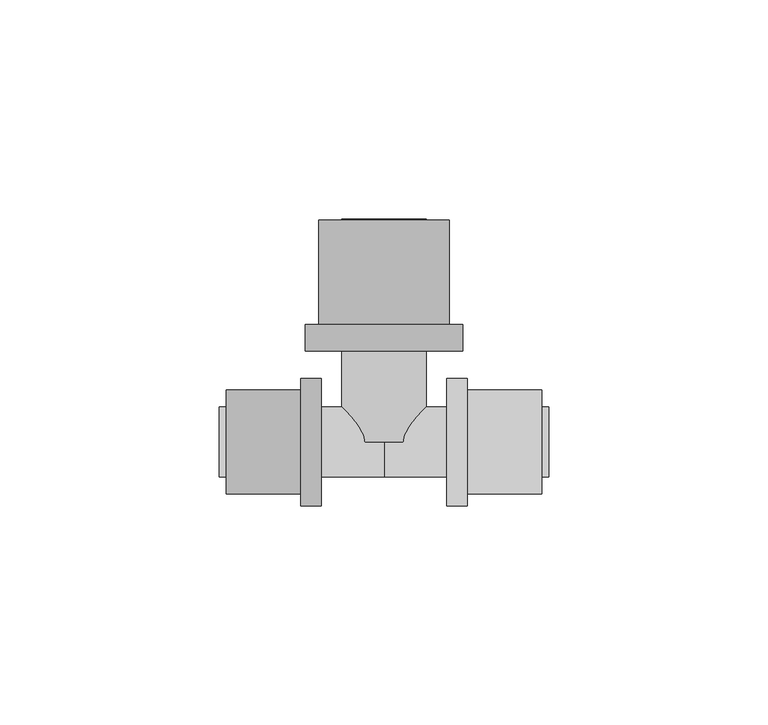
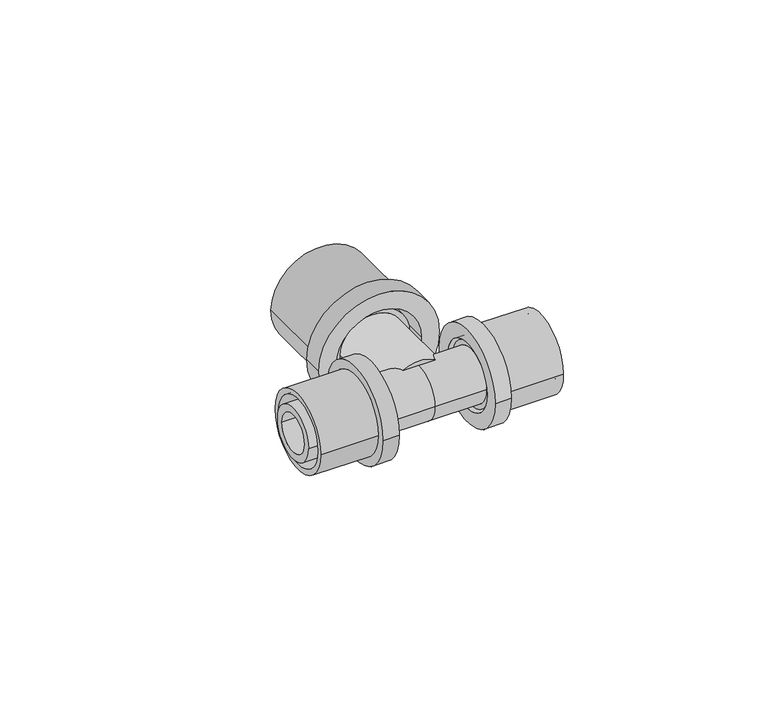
"""IFC4 building model written with IfcOpenShell, lengths in millimetres: pipe fitting geometry, FASTLOC_T-piece_EX+ : FSL T-Piece EX+ AT."""

from ifc_helpers import new_model, si_unit, frame, origin, place, context, project, spatial, polyline, circle_curve, source, transform, mapped, element, save
from ifc_brep_helpers import plane_surface, cylinder_surface, revolved_surface, advanced_brep


def pipe_fitting_f7ca1bd1(model_context):
    return source(origin(), model_context, "Body", "AdvancedBrep", [
        advanced_brep(
        [(19.0, 14.5, 0.0), (19.0, -14.5, 0.0), (14.3, -14.5, 0.0), (14.3, 14.5, 0.0), (36.0, 11.85, 0.0), (36.0, -11.85, 0.0), (19.0, -11.85, 0.0), (19.0, 11.85, 0.0), (14.3, 10.15, 0.0), (14.3, -10.15, 0.0), (36.0, -10.15, 0.0), (36.0, 10.15, 0.0)],
        [
            (0, 1, circle_curve(frame((19.0, 0.0, 0.0), z_axis=(-1.0, 0.0, 0.0), x_axis=(0.0, -1.0, 0.0)), 14.5)),
            (1, 2),
            (2, 3, circle_curve(frame((14.3, 0.0, 0.0), z_axis=(1.0, 0.0, 0.0), x_axis=(0.0, -1.0, 0.0)), 14.5)),
            (3, 0),
            (4, 5, circle_curve(frame((36.0, 0.0, 0.0), z_axis=(-1.0, 0.0, 0.0), x_axis=(0.0, -1.0, 0.0)), 11.85)),
            (5, 6),
            (6, 7, circle_curve(frame((19.0, 0.0, 0.0), z_axis=(1.0, 0.0, 0.0), x_axis=(0.0, -1.0, 0.0)), 11.85)),
            (7, 4),
            (8, 9, circle_curve(frame((14.3, 0.0, 0.0), z_axis=(-1.0, 0.0, 0.0), x_axis=(0.0, -1.0, 0.0)), 10.15)),
            (9, 10),
            (10, 11, circle_curve(frame((36.0, 0.0, 0.0), z_axis=(1.0, 0.0, 0.0), x_axis=(0.0, -1.0, 0.0)), 10.15)),
            (11, 8),
            (1, 0, circle_curve(frame((19.0, 0.0, 0.0), z_axis=(-1.0, 0.0, 0.0), x_axis=(0.0, 1.0, 0.0)), 14.5)),
            (3, 2, circle_curve(frame((14.3, 0.0, 0.0), z_axis=(1.0, 0.0, 0.0), x_axis=(0.0, 1.0, 0.0)), 14.5)),
            (6, 7, circle_curve(frame((19.0, 0.0, 0.0), z_axis=(-1.0, 0.0, 0.0), x_axis=(0.0, 1.0, 0.0)), 11.85)),
            (5, 4, circle_curve(frame((36.0, 0.0, 0.0), z_axis=(-1.0, 0.0, 0.0), x_axis=(0.0, 1.0, 0.0)), 11.85)),
            (10, 11, circle_curve(frame((36.0, 0.0, 0.0), z_axis=(-1.0, 0.0, 0.0), x_axis=(0.0, 1.0, 0.0)), 10.15)),
            (9, 8, circle_curve(frame((14.3, 0.0, 0.0), z_axis=(-1.0, 0.0, 0.0), x_axis=(0.0, 1.0, 0.0)), 10.15)),
        ],
        [
            cylinder_surface(frame((14.3, 0.0, 0.0), z_axis=(1.0, 0.0, 0.0), x_axis=(0.0, -1.0, 0.0)), 14.5),
            cylinder_surface(frame((14.3, 0.0, 0.0), z_axis=(1.0, 0.0, 0.0), x_axis=(0.0, -1.0, 0.0)), 11.85),
            revolved_surface(polyline([(36.0, -10.15, 0.0), (14.3, -10.15, 0.0)]), (14.3, 0.0, 0.0), (1.0, 0.0, 0.0)),
            cylinder_surface(frame((14.3, 0.0, 0.0), z_axis=(1.0, 0.0, 0.0), x_axis=(0.0, 1.0, 0.0)), 14.5),
            plane_surface(frame((19.0, 0.0, 0.0), z_axis=(1.0, 0.0, 0.0), x_axis=(0.0, 1.0, 0.0))),
            cylinder_surface(frame((14.3, 0.0, 0.0), z_axis=(1.0, 0.0, 0.0), x_axis=(0.0, 1.0, 0.0)), 11.85),
            plane_surface(frame((36.0, 0.0, 0.0), z_axis=(1.0, 0.0, 0.0), x_axis=(0.0, 1.0, 0.0))),
            revolved_surface(polyline([(36.0, 10.15, 0.0), (14.3, 10.15, 0.0)]), (14.3, 0.0, 0.0), (1.0, 0.0, 0.0)),
            plane_surface(frame((14.3, 0.0, 0.0), z_axis=(-1.0, 0.0, 0.0), x_axis=(0.0, 1.0, 0.0))),
        ],
        [
            (0, [[1, 2, 3, 4]]),
            (1, [[5, 6, 7, 8]]),
            (2, [[9, 10, 11, 12]]),
            (3, [[13, -4, 14, -2]]),
            (4, [[-13, -1], [15, -7]]),
            (5, [[16, -8, -15, -6]]),
            (6, [[-16, -5], [17, -11]]),
            (7, [[18, -12, -17, -10]]),
            (8, [[-14, -3], [-18, -9]]),
        ],
    ),
        advanced_brep(
        [(-19.0, -14.5, 0.0), (-19.0, 14.5, 0.0), (-14.3, 14.5, 0.0), (-14.3, -14.5, 0.0), (-36.0, -11.85, 0.0), (-36.0, 11.85, 0.0), (-19.0, 11.85, 0.0), (-19.0, -11.85, 0.0), (-14.3, -10.15, 0.0), (-14.3, 10.15, 0.0), (-36.0, 10.15, 0.0), (-36.0, -10.15, 0.0)],
        [
            (0, 1, circle_curve(frame((-19.0, 0.0, 0.0), z_axis=(1.0, 0.0, 0.0), x_axis=(0.0, 1.0, 0.0)), 14.5)),
            (1, 2),
            (2, 3, circle_curve(frame((-14.3, 0.0, 0.0), z_axis=(-1.0, 0.0, 0.0), x_axis=(0.0, 1.0, 0.0)), 14.5)),
            (3, 0),
            (4, 5, circle_curve(frame((-36.0, 0.0, 0.0), z_axis=(1.0, 0.0, 0.0), x_axis=(0.0, 1.0, 0.0)), 11.85)),
            (5, 6),
            (6, 7, circle_curve(frame((-19.0, 0.0, 0.0), z_axis=(-1.0, 0.0, 0.0), x_axis=(0.0, 1.0, 0.0)), 11.85)),
            (7, 4),
            (8, 9, circle_curve(frame((-14.3, 0.0, 0.0), z_axis=(1.0, 0.0, 0.0), x_axis=(0.0, 1.0, 0.0)), 10.15)),
            (9, 10),
            (10, 11, circle_curve(frame((-36.0, 0.0, 0.0), z_axis=(-1.0, 0.0, 0.0), x_axis=(0.0, 1.0, 0.0)), 10.15)),
            (11, 8),
            (1, 0, circle_curve(frame((-19.0, 0.0, 0.0), z_axis=(1.0, 0.0, 0.0), x_axis=(0.0, -1.0, 0.0)), 14.5)),
            (3, 2, circle_curve(frame((-14.3, 0.0, 0.0), z_axis=(-1.0, 0.0, 0.0), x_axis=(0.0, -1.0, 0.0)), 14.5)),
            (6, 7, circle_curve(frame((-19.0, 0.0, 0.0), z_axis=(1.0, 0.0, 0.0), x_axis=(0.0, -1.0, 0.0)), 11.85)),
            (5, 4, circle_curve(frame((-36.0, 0.0, 0.0), z_axis=(1.0, 0.0, 0.0), x_axis=(0.0, -1.0, 0.0)), 11.85)),
            (10, 11, circle_curve(frame((-36.0, 0.0, 0.0), z_axis=(1.0, 0.0, 0.0), x_axis=(0.0, -1.0, 0.0)), 10.15)),
            (9, 8, circle_curve(frame((-14.3, 0.0, 0.0), z_axis=(1.0, 0.0, 0.0), x_axis=(0.0, -1.0, 0.0)), 10.15)),
        ],
        [
            cylinder_surface(frame((-14.3, 0.0, 0.0), z_axis=(-1.0, 0.0, 0.0), x_axis=(0.0, 1.0, 0.0)), 14.5),
            cylinder_surface(frame((-14.3, 0.0, 0.0), z_axis=(-1.0, 0.0, 0.0), x_axis=(0.0, 1.0, 0.0)), 11.85),
            revolved_surface(polyline([(-36.0, 10.15, 0.0), (-14.3, 10.15, 0.0)]), (-14.3, 0.0, 0.0), (-1.0, 0.0, 0.0)),
            cylinder_surface(frame((-14.3, 0.0, 0.0), z_axis=(-1.0, 0.0, 0.0), x_axis=(0.0, -1.0, 0.0)), 14.5),
            plane_surface(frame((-19.0, 0.0, 0.0), z_axis=(-1.0, 0.0, 0.0), x_axis=(0.0, -1.0, 0.0))),
            cylinder_surface(frame((-14.3, 0.0, 0.0), z_axis=(-1.0, 0.0, 0.0), x_axis=(0.0, -1.0, 0.0)), 11.85),
            plane_surface(frame((-36.0, 0.0, 0.0), z_axis=(-1.0, 0.0, 0.0), x_axis=(0.0, -1.0, 0.0))),
            revolved_surface(polyline([(-36.0, -10.15, 0.0), (-14.3, -10.15, 0.0)]), (-14.3, 0.0, 0.0), (-1.0, 0.0, 0.0)),
            plane_surface(frame((-14.3, 0.0, 0.0), z_axis=(1.0, 0.0, 0.0), x_axis=(0.0, -1.0, 0.0))),
        ],
        [
            (0, [[1, 2, 3, 4]]),
            (1, [[5, 6, 7, 8]]),
            (2, [[9, 10, 11, 12]]),
            (3, [[13, -4, 14, -2]]),
            (4, [[-13, -1], [15, -7]]),
            (5, [[16, -8, -15, -6]]),
            (6, [[-16, -5], [17, -11]]),
            (7, [[18, -12, -17, -10]]),
            (8, [[-14, -3], [-18, -9]]),
        ],
    ),
        advanced_brep(
        [(-18.0, 26.8, 0.0), (18.0, 26.8, 0.0), (18.0, 20.8, 0.0), (-18.0, 20.8, 0.0), (-14.85, 50.6, 0.0), (14.85, 50.6, 0.0), (14.85, 26.8, 0.0), (-14.85, 26.8, 0.0), (-12.65, 20.8, 0.0), (12.65, 20.8, 0.0), (12.65, 50.6, 0.0), (-12.65, 50.6, 0.0)],
        [
            (0, 1, circle_curve(frame((0.0, 26.8, 0.0), z_axis=(0.0, -1.0, 0.0), x_axis=(1.0, 0.0, 0.0)), 18.0)),
            (1, 2),
            (2, 3, circle_curve(frame((0.0, 20.8, 0.0), z_axis=(0.0, 1.0, 0.0), x_axis=(1.0, 0.0, 0.0)), 18.0)),
            (3, 0),
            (4, 5, circle_curve(frame((0.0, 50.6, 0.0), z_axis=(0.0, -1.0, 0.0), x_axis=(1.0, 0.0, 0.0)), 14.85)),
            (5, 6),
            (6, 7, circle_curve(frame((0.0, 26.8, 0.0), z_axis=(0.0, 1.0, 0.0), x_axis=(1.0, 0.0, 0.0)), 14.85)),
            (7, 4),
            (8, 9, circle_curve(frame((0.0, 20.8, 0.0), z_axis=(0.0, -1.0, 0.0), x_axis=(1.0, 0.0, 0.0)), 12.65)),
            (9, 10),
            (10, 11, circle_curve(frame((0.0, 50.6, 0.0), z_axis=(0.0, 1.0, 0.0), x_axis=(1.0, 0.0, 0.0)), 12.65)),
            (11, 8),
            (1, 0, circle_curve(frame((0.0, 26.8, 0.0), z_axis=(0.0, -1.0, 0.0), x_axis=(-1.0, 0.0, 0.0)), 18.0)),
            (3, 2, circle_curve(frame((0.0, 20.8, 0.0), z_axis=(0.0, 1.0, 0.0), x_axis=(-1.0, 0.0, 0.0)), 18.0)),
            (6, 7, circle_curve(frame((0.0, 26.8, 0.0), z_axis=(0.0, -1.0, 0.0), x_axis=(-1.0, 0.0, 0.0)), 14.85)),
            (5, 4, circle_curve(frame((0.0, 50.6, 0.0), z_axis=(0.0, -1.0, 0.0), x_axis=(-1.0, 0.0, 0.0)), 14.85)),
            (10, 11, circle_curve(frame((0.0, 50.6, 0.0), z_axis=(0.0, -1.0, 0.0), x_axis=(-1.0, 0.0, 0.0)), 12.65)),
            (9, 8, circle_curve(frame((0.0, 20.8, 0.0), z_axis=(0.0, -1.0, 0.0), x_axis=(-1.0, 0.0, 0.0)), 12.65)),
        ],
        [
            cylinder_surface(frame((0.0, 20.8, 0.0), z_axis=(0.0, 1.0, 0.0), x_axis=(1.0, 0.0, 0.0)), 18.0),
            cylinder_surface(frame((0.0, 20.8, 0.0), z_axis=(0.0, 1.0, 0.0), x_axis=(1.0, 0.0, 0.0)), 14.85),
            revolved_surface(polyline([(12.65, 50.6, 0.0), (12.65, 20.8, 0.0)]), (0.0, 20.8, 0.0), (0.0, 1.0, 0.0)),
            cylinder_surface(frame((0.0, 20.8, 0.0), z_axis=(0.0, 1.0, 0.0), x_axis=(-1.0, 0.0, 0.0)), 18.0),
            plane_surface(frame((0.0, 26.8, 0.0), z_axis=(0.0, 1.0, 0.0), x_axis=(-1.0, 0.0, 0.0))),
            cylinder_surface(frame((0.0, 20.8, 0.0), z_axis=(0.0, 1.0, 0.0), x_axis=(-1.0, 0.0, 0.0)), 14.85),
            plane_surface(frame((0.0, 50.6, 0.0), z_axis=(0.0, 1.0, 0.0), x_axis=(-1.0, 0.0, 0.0))),
            revolved_surface(polyline([(-12.65, 50.6, 0.0), (-12.65, 20.8, 0.0)]), (0.0, 20.8, 0.0), (0.0, 1.0, 0.0)),
            plane_surface(frame((0.0, 20.8, 0.0), z_axis=(0.0, -1.0, 0.0), x_axis=(-1.0, 0.0, 0.0))),
        ],
        [
            (0, [[1, 2, 3, 4]]),
            (1, [[5, 6, 7, 8]]),
            (2, [[9, 10, 11, 12]]),
            (3, [[13, -4, 14, -2]]),
            (4, [[-13, -1], [15, -7]]),
            (5, [[16, -8, -15, -6]]),
            (6, [[-16, -5], [17, -11]]),
            (7, [[18, -12, -17, -10]]),
            (8, [[-14, -3], [-18, -9]]),
        ],
    ),
        advanced_brep(
        [(0.0, 8.0, 0.0), (0.0, -8.0, 0.0), (-15.3, -8.0, 0.0), (-15.3, 8.0, 0.0), (15.3, 8.0, 0.0), (15.3, -8.0, 0.0), (18.75, 9.425, 0.0), (18.75, -9.425, 0.0), (15.3, -9.425, 0.0), (15.3, 9.425, 0.0), (37.5, 8.0, 0.0), (37.5, -8.0, 0.0), (18.75, -8.0, 0.0), (18.75, 8.0, 0.0), (-37.5, 5.75, 0.0), (-37.5, -5.75, 0.0), (37.5, -5.75, 0.0), (37.5, 5.75, 0.0), (-18.75, 8.0, 0.0), (-18.75, -8.0, 0.0), (-37.5, -8.0, 0.0), (-37.5, 8.0, 0.0), (-15.3, 9.425, 0.0), (-15.3, -9.425, 0.0), (-18.75, -9.425, 0.0), (-18.75, 9.425, 0.0)],
        [
            (0, 1, circle_curve(frame((0.0, 0.0, 0.0), z_axis=(-1.0, 0.0, 0.0), x_axis=(0.0, -1.0, 0.0)), 8.0)),
            (1, 2),
            (2, 3, circle_curve(frame((-15.3, 0.0, 0.0), z_axis=(1.0, 0.0, 0.0), x_axis=(0.0, -1.0, 0.0)), 8.0)),
            (3, 0),
            (4, 5, circle_curve(frame((15.3, 0.0, 0.0), z_axis=(-1.0, 0.0, 0.0), x_axis=(0.0, -1.0, 0.0)), 8.0)),
            (5, 1),
            (0, 4),
            (6, 7, circle_curve(frame((18.75, 0.0, 0.0), z_axis=(-1.0, 0.0, 0.0), x_axis=(0.0, -1.0, 0.0)), 9.425)),
            (7, 8),
            (8, 9, circle_curve(frame((15.3, 0.0, 0.0), z_axis=(1.0, 0.0, 0.0), x_axis=(0.0, -1.0, 0.0)), 9.425)),
            (9, 6),
            (10, 11, circle_curve(frame((37.5, 0.0, 0.0), z_axis=(-1.0, 0.0, 0.0), x_axis=(0.0, -1.0, 0.0)), 8.0)),
            (11, 12),
            (12, 13, circle_curve(frame((18.75, 0.0, 0.0), z_axis=(1.0, 0.0, 0.0), x_axis=(0.0, -1.0, 0.0)), 8.0)),
            (13, 10),
            (14, 15, circle_curve(frame((-37.5, 0.0, 0.0), z_axis=(-1.0, 0.0, 0.0), x_axis=(0.0, -1.0, 0.0)), 5.75)),
            (15, 16),
            (16, 17, circle_curve(frame((37.5, 0.0, 0.0), z_axis=(1.0, 0.0, 0.0), x_axis=(0.0, -1.0, 0.0)), 5.75)),
            (17, 14),
            (18, 19, circle_curve(frame((-18.75, 0.0, 0.0), z_axis=(-1.0, 0.0, 0.0), x_axis=(0.0, -1.0, 0.0)), 8.0)),
            (19, 20),
            (20, 21, circle_curve(frame((-37.5, 0.0, 0.0), z_axis=(1.0, 0.0, 0.0), x_axis=(0.0, -1.0, 0.0)), 8.0)),
            (21, 18),
            (22, 23, circle_curve(frame((-15.3, 0.0, 0.0), z_axis=(-1.0, 0.0, 0.0), x_axis=(0.0, -1.0, 0.0)), 9.425)),
            (23, 24),
            (24, 25, circle_curve(frame((-18.75, 0.0, 0.0), z_axis=(1.0, 0.0, 0.0), x_axis=(0.0, -1.0, 0.0)), 9.425)),
            (25, 22),
            (22, 23, circle_curve(frame((-15.3, 0.0, 0.0), z_axis=(1.0, 0.0, 0.0), x_axis=(0.0, 1.0, 0.0)), 9.425)),
            (2, 3, circle_curve(frame((-15.3, 0.0, 0.0), z_axis=(-1.0, 0.0, 0.0), x_axis=(0.0, 1.0, 0.0)), 8.0)),
            (1, 0, circle_curve(frame((0.0, 0.0, 0.0), z_axis=(-1.0, 0.0, 0.0), x_axis=(0.0, 1.0, 0.0)), 8.0)),
            (5, 4, circle_curve(frame((15.3, 0.0, 0.0), z_axis=(-1.0, 0.0, 0.0), x_axis=(0.0, 1.0, 0.0)), 8.0)),
            (8, 9, circle_curve(frame((15.3, 0.0, 0.0), z_axis=(-1.0, 0.0, 0.0), x_axis=(0.0, 1.0, 0.0)), 9.425)),
            (7, 6, circle_curve(frame((18.75, 0.0, 0.0), z_axis=(-1.0, 0.0, 0.0), x_axis=(0.0, 1.0, 0.0)), 9.425)),
            (12, 13, circle_curve(frame((18.75, 0.0, 0.0), z_axis=(-1.0, 0.0, 0.0), x_axis=(0.0, 1.0, 0.0)), 8.0)),
            (11, 10, circle_curve(frame((37.5, 0.0, 0.0), z_axis=(-1.0, 0.0, 0.0), x_axis=(0.0, 1.0, 0.0)), 8.0)),
            (16, 17, circle_curve(frame((37.5, 0.0, 0.0), z_axis=(-1.0, 0.0, 0.0), x_axis=(0.0, 1.0, 0.0)), 5.75)),
            (15, 14, circle_curve(frame((-37.5, 0.0, 0.0), z_axis=(-1.0, 0.0, 0.0), x_axis=(0.0, 1.0, 0.0)), 5.75)),
            (20, 21, circle_curve(frame((-37.5, 0.0, 0.0), z_axis=(-1.0, 0.0, 0.0), x_axis=(0.0, 1.0, 0.0)), 8.0)),
            (19, 18, circle_curve(frame((-18.75, 0.0, 0.0), z_axis=(-1.0, 0.0, 0.0), x_axis=(0.0, 1.0, 0.0)), 8.0)),
            (24, 25, circle_curve(frame((-18.75, 0.0, 0.0), z_axis=(-1.0, 0.0, 0.0), x_axis=(0.0, 1.0, 0.0)), 9.425)),
        ],
        [
            cylinder_surface(frame((0.0, 0.0, 0.0), z_axis=(1.0, 0.0, 0.0), x_axis=(0.0, -1.0, 0.0)), 8.0),
            cylinder_surface(frame((0.0, 0.0, 0.0), z_axis=(1.0, 0.0, 0.0), x_axis=(0.0, -1.0, 0.0)), 9.425),
            revolved_surface(polyline([(37.5, -5.75, 0.0), (-37.5, -5.75, 0.0)]), (0.0, 0.0, 0.0), (1.0, 0.0, 0.0)),
            plane_surface(frame((-15.3, 0.0, 0.0), z_axis=(1.0, 0.0, 0.0), x_axis=(0.0, 1.0, 0.0))),
            cylinder_surface(frame((0.0, 0.0, 0.0), z_axis=(1.0, 0.0, 0.0), x_axis=(0.0, 1.0, 0.0)), 8.0),
            plane_surface(frame((15.3, 0.0, 0.0), z_axis=(-1.0, 0.0, 0.0), x_axis=(0.0, 1.0, 0.0))),
            cylinder_surface(frame((0.0, 0.0, 0.0), z_axis=(1.0, 0.0, 0.0), x_axis=(0.0, 1.0, 0.0)), 9.425),
            plane_surface(frame((18.75, 0.0, 0.0), z_axis=(1.0, 0.0, 0.0), x_axis=(0.0, 1.0, 0.0))),
            plane_surface(frame((37.5, 0.0, 0.0), z_axis=(1.0, 0.0, 0.0), x_axis=(0.0, 1.0, 0.0))),
            revolved_surface(polyline([(37.5, 5.75, 0.0), (-37.5, 5.75, 0.0)]), (0.0, 0.0, 0.0), (1.0, 0.0, 0.0)),
            plane_surface(frame((-37.5, 0.0, 0.0), z_axis=(-1.0, 0.0, 0.0), x_axis=(0.0, 1.0, 0.0))),
            plane_surface(frame((-18.75, 0.0, 0.0), z_axis=(-1.0, 0.0, 0.0), x_axis=(0.0, 1.0, 0.0))),
        ],
        [
            (0, [[1, 2, 3, 4]]),
            (0, [[5, 6, -1, 7]]),
            (1, [[8, 9, 10, 11]]),
            (0, [[12, 13, 14, 15]]),
            (2, [[16, 17, 18, 19]]),
            (0, [[20, 21, 22, 23]]),
            (1, [[24, 25, 26, 27]]),
            (3, [[28, -24], [29, -3]]),
            (4, [[30, -4, -29, -2]]),
            (4, [[31, -7, -30, -6]]),
            (5, [[32, -10], [-31, -5]]),
            (6, [[33, -11, -32, -9]]),
            (7, [[-33, -8], [34, -14]]),
            (4, [[35, -15, -34, -13]]),
            (8, [[-35, -12], [36, -18]]),
            (9, [[37, -19, -36, -17]]),
            (10, [[38, -22], [-37, -16]]),
            (4, [[39, -23, -38, -21]]),
            (11, [[40, -26], [-39, -20]]),
            (6, [[-28, -27, -40, -25]]),
        ],
    ),
        advanced_brep(
        [(7.35, 50.8, 0.0), (-7.35, 50.8, 0.0), (-7.35, 0.0, 0.0), (7.35, 0.0, 0.0), (9.6, 0.0, 0.0), (-9.6, 0.0, 0.0), (-9.6, 24.0, 0.0), (9.6, 24.0, 0.0), (11.1, 24.0, 0.0), (-11.1, 24.0, 0.0), (-11.1, 26.8, 0.0), (11.1, 26.8, 0.0), (9.6, 26.8, 0.0), (-9.6, 26.8, 0.0), (-9.6, 50.8, 0.0), (9.6, 50.8, 0.0)],
        [
            (0, 1, circle_curve(frame((0.0, 50.8, 0.0), z_axis=(0.0, 1.0, 0.0), x_axis=(-1.0, 0.0, 0.0)), 7.35)),
            (1, 2),
            (2, 3, circle_curve(frame((0.0, 0.0, 0.0), z_axis=(0.0, -1.0, 0.0), x_axis=(-1.0, 0.0, 0.0)), 7.35)),
            (3, 0),
            (4, 5, circle_curve(frame((0.0, 0.0, 0.0), z_axis=(0.0, 1.0, 0.0), x_axis=(-1.0, 0.0, 0.0)), 9.6)),
            (5, 6),
            (6, 7, circle_curve(frame((0.0, 24.0, 0.0), z_axis=(0.0, -1.0, 0.0), x_axis=(-1.0, 0.0, 0.0)), 9.6)),
            (7, 4),
            (8, 9, circle_curve(frame((0.0, 24.0, 0.0), z_axis=(0.0, 1.0, 0.0), x_axis=(-1.0, 0.0, 0.0)), 11.1)),
            (9, 10),
            (10, 11, circle_curve(frame((0.0, 26.8, 0.0), z_axis=(0.0, -1.0, 0.0), x_axis=(-1.0, 0.0, 0.0)), 11.1)),
            (11, 8),
            (12, 13, circle_curve(frame((0.0, 26.8, 0.0), z_axis=(0.0, 1.0, 0.0), x_axis=(-1.0, 0.0, 0.0)), 9.6)),
            (13, 14),
            (14, 15, circle_curve(frame((0.0, 50.8, 0.0), z_axis=(0.0, -1.0, 0.0), x_axis=(-1.0, 0.0, 0.0)), 9.6)),
            (15, 12),
            (1, 0, circle_curve(frame((0.0, 50.8, 0.0), z_axis=(0.0, 1.0, 0.0), x_axis=(1.0, 0.0, 0.0)), 7.35)),
            (3, 2, circle_curve(frame((0.0, 0.0, 0.0), z_axis=(0.0, -1.0, 0.0), x_axis=(1.0, 0.0, 0.0)), 7.35)),
            (4, 5, circle_curve(frame((0.0, 0.0, 0.0), z_axis=(0.0, -1.0, 0.0), x_axis=(1.0, 0.0, 0.0)), 9.6)),
            (7, 6, circle_curve(frame((0.0, 24.0, 0.0), z_axis=(0.0, -1.0, 0.0), x_axis=(1.0, 0.0, 0.0)), 9.6)),
            (8, 9, circle_curve(frame((0.0, 24.0, 0.0), z_axis=(0.0, -1.0, 0.0), x_axis=(1.0, 0.0, 0.0)), 11.1)),
            (11, 10, circle_curve(frame((0.0, 26.8, 0.0), z_axis=(0.0, -1.0, 0.0), x_axis=(1.0, 0.0, 0.0)), 11.1)),
            (12, 13, circle_curve(frame((0.0, 26.8, 0.0), z_axis=(0.0, -1.0, 0.0), x_axis=(1.0, 0.0, 0.0)), 9.6)),
            (15, 14, circle_curve(frame((0.0, 50.8, 0.0), z_axis=(0.0, -1.0, 0.0), x_axis=(1.0, 0.0, 0.0)), 9.6)),
        ],
        [
            revolved_surface(polyline([(-7.35, 0.0, 0.0), (-7.35, 50.8, 0.0)]), (0.0, 0.0, 0.0), (0.0, -1.0, 0.0)),
            cylinder_surface(frame((0.0, 0.0, 0.0), z_axis=(0.0, -1.0, 0.0), x_axis=(-1.0, 0.0, 0.0)), 9.6),
            cylinder_surface(frame((0.0, 0.0, 0.0), z_axis=(0.0, -1.0, 0.0), x_axis=(-1.0, 0.0, 0.0)), 11.1),
            revolved_surface(polyline([(7.35, 0.0, 0.0), (7.35, 50.8, 0.0)]), (0.0, 0.0, 0.0), (0.0, -1.0, 0.0)),
            plane_surface(frame((0.0, 0.0, 0.0), z_axis=(0.0, -1.0, 0.0), x_axis=(1.0, 0.0, 0.0))),
            cylinder_surface(frame((0.0, 0.0, 0.0), z_axis=(0.0, -1.0, 0.0), x_axis=(1.0, 0.0, 0.0)), 9.6),
            plane_surface(frame((0.0, 24.0, 0.0), z_axis=(0.0, -1.0, 0.0), x_axis=(1.0, 0.0, 0.0))),
            cylinder_surface(frame((0.0, 0.0, 0.0), z_axis=(0.0, -1.0, 0.0), x_axis=(1.0, 0.0, 0.0)), 11.1),
            plane_surface(frame((0.0, 26.8, 0.0), z_axis=(0.0, 1.0, 0.0), x_axis=(1.0, 0.0, 0.0))),
            plane_surface(frame((0.0, 50.8, 0.0), z_axis=(0.0, 1.0, 0.0), x_axis=(1.0, 0.0, 0.0))),
        ],
        [
            (0, [[1, 2, 3, 4]]),
            (1, [[5, 6, 7, 8]]),
            (2, [[9, 10, 11, 12]]),
            (1, [[13, 14, 15, 16]]),
            (3, [[17, -4, 18, -2]]),
            (4, [[19, -5], [-18, -3]]),
            (5, [[-19, -8, 20, -6]]),
            (6, [[21, -9], [-20, -7]]),
            (7, [[-21, -12, 22, -10]]),
            (8, [[-22, -11], [23, -13]]),
            (5, [[-23, -16, 24, -14]]),
            (9, [[-24, -15], [-17, -1]]),
        ],
    ),
    ])


if __name__ == "__main__":
    model = new_model("IFC4")
    model_context = context("Model", 3, world=origin())
    ifc_project = project(units=[si_unit("LENGTHUNIT", "METRE", prefix="MILLI")], contexts=[model_context])
    site = spatial("IfcSite", under=ifc_project)
    building = spatial("IfcBuilding", under=site)
    placement = place(None, origin())
    pipe_fitting_shape = pipe_fitting_f7ca1bd1(model_context)
    element("IfcPipeFitting", 1, ObjectType="FASTLOC_T-piece_EX+ : FSL T-Piece EX+ AT", at=placement, inside=building, context=model_context, shape_type="MappedRepresentation", body=[
        mapped(pipe_fitting_shape, transform((0.0, 0.0, 0.0), x_axis=(1.0, 0.0, 0.0), y_axis=(0.0, 1.0, 0.0), z_axis=(0.0, 0.0, 1.0))),
    ])
    save(model, "model.ifc")
